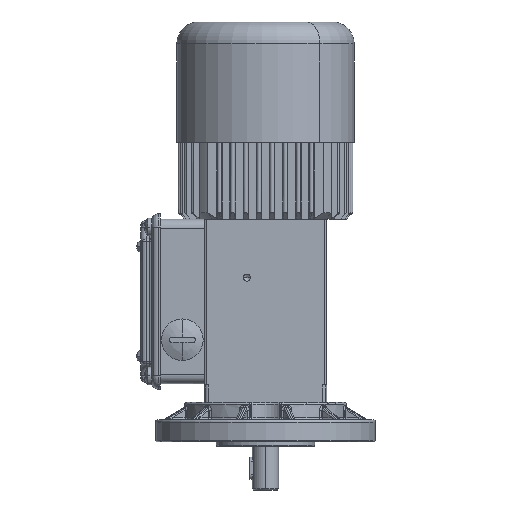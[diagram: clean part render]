
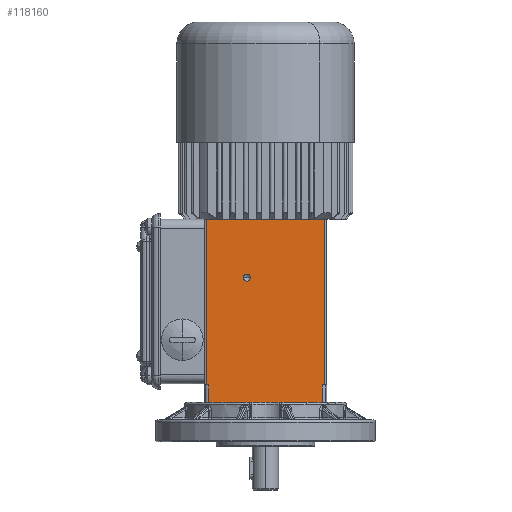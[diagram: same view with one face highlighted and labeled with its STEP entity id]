
A CAD part, front view. The second image highlights one B-rep face of the part: STEP entity #118160.
In plain terms, the highlighted planar face has unit normal (0, -1, 0).
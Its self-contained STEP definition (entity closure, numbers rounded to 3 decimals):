
#13765=CARTESIAN_POINT('',(26.,-28.,-37.85));
#13766=VERTEX_POINT('',#13765);
#13774=CARTESIAN_POINT('',(26.,-28.,-45.85));
#13775=VERTEX_POINT('',#13774);
#13776=CARTESIAN_POINT('',(26.,-28.,-37.85));
#13777=DIRECTION('',(0.0,0.0,-1.0));
#13778=VECTOR('',#13777,8.);
#13779=LINE('',#13776,#13778);
#13780=EDGE_CURVE('',#13766,#13775,#13779,.T.);
#15552=CARTESIAN_POINT('',(-27.,-28.,-37.85));
#15553=VERTEX_POINT('',#15552);
#15561=CARTESIAN_POINT('',(-27.,-28.,37.85));
#15562=VERTEX_POINT('',#15561);
#15563=CARTESIAN_POINT('',(-27.,-28.,-37.85));
#15564=DIRECTION('',(0.0,0.0,1.0));
#15565=VECTOR('',#15564,75.7);
#15566=LINE('',#15563,#15565);
#15567=EDGE_CURVE('',#15553,#15562,#15566,.T.);
#17437=CARTESIAN_POINT('',(-6.879,-28.0,11.15));
#17438=VERTEX_POINT('',#17437);
#17454=CARTESIAN_POINT('',(-10.121,-28.0,11.15));
#17455=VERTEX_POINT('',#17454);
#17462=CARTESIAN_POINT('',(-8.5,-28.,11.15));
#17463=DIRECTION('',(0.0,1.0,0.0));
#17464=DIRECTION('',(1.0,0.0,0.0));
#17465=AXIS2_PLACEMENT_3D('',#17462,#17463,#17464);
#17466=CIRCLE('',#17465,1.621);
#17467=EDGE_CURVE('',#17438,#17455,#17466,.T.);
#22635=CARTESIAN_POINT('',(-24.187,-28.,37.85));
#22636=VERTEX_POINT('',#22635);
#50681=CARTESIAN_POINT('',(-23.415,-28.,-45.85));
#50682=VERTEX_POINT('',#50681);
#50683=CARTESIAN_POINT('',(23.415,-28.,-45.85));
#50684=VERTEX_POINT('',#50683);
#50685=CARTESIAN_POINT('',(-23.415,-28.,-45.85));
#50686=DIRECTION('',(1.0,0.0,0.0));
#50687=VECTOR('',#50686,46.829);
#50688=LINE('',#50685,#50687);
#50689=EDGE_CURVE('',#50682,#50684,#50688,.T.);
#76609=CARTESIAN_POINT('',(-26.,-28.,-45.85));
#76610=VERTEX_POINT('',#76609);
#76611=CARTESIAN_POINT('',(-26.,-28.,-45.85));
#76612=DIRECTION('',(1.0,0.0,0.0));
#76613=VECTOR('',#76612,2.585);
#76614=LINE('',#76611,#76613);
#76615=EDGE_CURVE('',#76610,#50682,#76614,.T.);
#76687=CARTESIAN_POINT('',(23.415,-28.,-45.85));
#76688=DIRECTION('',(1.0,0.0,0.0));
#76689=VECTOR('',#76688,2.585);
#76690=LINE('',#76687,#76689);
#76691=EDGE_CURVE('',#50684,#13775,#76690,.T.);
#96184=CARTESIAN_POINT('',(24.187,-28.,37.85));
#96185=VERTEX_POINT('',#96184);
#96186=CARTESIAN_POINT('',(24.187,-28.,37.85));
#96187=DIRECTION('',(-1.0,0.0,0.0));
#96188=VECTOR('',#96187,48.374);
#96189=LINE('',#96186,#96188);
#96190=EDGE_CURVE('',#96185,#22636,#96189,.T.);
#115598=CARTESIAN_POINT('',(27.,-28.,37.85));
#115599=VERTEX_POINT('',#115598);
#115600=CARTESIAN_POINT('',(27.,-28.,37.85));
#115601=DIRECTION('',(-1.0,0.0,0.0));
#115602=VECTOR('',#115601,2.813);
#115603=LINE('',#115600,#115602);
#115604=EDGE_CURVE('',#115599,#96185,#115603,.T.);
#115671=CARTESIAN_POINT('',(-24.187,-28.,37.85));
#115672=DIRECTION('',(-1.0,0.0,0.0));
#115673=VECTOR('',#115672,2.813);
#115674=LINE('',#115671,#115673);
#115675=EDGE_CURVE('',#22636,#15562,#115674,.T.);
#116146=CARTESIAN_POINT('',(-8.5,-28.,11.15));
#116147=DIRECTION('',(0.0,1.0,0.0));
#116148=DIRECTION('',(1.0,0.0,0.0));
#116149=AXIS2_PLACEMENT_3D('',#116146,#116147,#116148);
#116150=CIRCLE('',#116149,1.621);
#116151=EDGE_CURVE('',#17455,#17438,#116150,.T.);
#117692=CARTESIAN_POINT('',(27.,-28.,-37.85));
#117693=VERTEX_POINT('',#117692);
#117694=CARTESIAN_POINT('',(27.,-28.,37.85));
#117695=DIRECTION('',(0.0,0.0,-1.0));
#117696=VECTOR('',#117695,75.7);
#117697=LINE('',#117694,#117696);
#117698=EDGE_CURVE('',#115599,#117693,#117697,.T.);
#118120=CARTESIAN_POINT('',(28.,-28.,-37.85));
#118121=DIRECTION('',(0.0,-1.0,0.0));
#118122=DIRECTION('',(0.0,0.0,-1.0));
#118123=AXIS2_PLACEMENT_3D('',#118120,#118121,#118122);
#118124=PLANE('',#118123);
#118125=ORIENTED_EDGE('',*,*,#117698,.F.);
#118126=ORIENTED_EDGE('',*,*,#115604,.T.);
#118127=ORIENTED_EDGE('',*,*,#96190,.T.);
#118128=ORIENTED_EDGE('',*,*,#115675,.T.);
#118129=ORIENTED_EDGE('',*,*,#15567,.F.);
#118130=CARTESIAN_POINT('',(-26.,-28.,-37.85));
#118131=VERTEX_POINT('',#118130);
#118132=CARTESIAN_POINT('',(-27.,-28.,-37.85));
#118133=DIRECTION('',(1.0,0.0,0.0));
#118134=VECTOR('',#118133,1.);
#118135=LINE('',#118132,#118134);
#118136=EDGE_CURVE('',#15553,#118131,#118135,.T.);
#118137=ORIENTED_EDGE('',*,*,#118136,.T.);
#118138=CARTESIAN_POINT('',(-26.,-28.,-45.85));
#118139=DIRECTION('',(0.0,0.0,1.0));
#118140=VECTOR('',#118139,8.);
#118141=LINE('',#118138,#118140);
#118142=EDGE_CURVE('',#76610,#118131,#118141,.T.);
#118143=ORIENTED_EDGE('',*,*,#118142,.F.);
#118144=ORIENTED_EDGE('',*,*,#76615,.T.);
#118145=ORIENTED_EDGE('',*,*,#50689,.T.);
#118146=ORIENTED_EDGE('',*,*,#76691,.T.);
#118147=ORIENTED_EDGE('',*,*,#13780,.F.);
#118148=CARTESIAN_POINT('',(26.,-28.,-37.85));
#118149=DIRECTION('',(1.0,0.,0.));
#118150=VECTOR('',#118149,1.);
#118151=LINE('',#118148,#118150);
#118152=EDGE_CURVE('',#13766,#117693,#118151,.T.);
#118153=ORIENTED_EDGE('',*,*,#118152,.T.);
#118154=EDGE_LOOP('',(#118125,#118126,#118127,#118128,#118129,#118137,#118143,#118144,#118145,#118146,#118147,#118153));
#118155=FACE_OUTER_BOUND('',#118154,.T.);
#118156=ORIENTED_EDGE('',*,*,#17467,.T.);
#118157=ORIENTED_EDGE('',*,*,#116151,.T.);
#118158=EDGE_LOOP('',(#118156,#118157));
#118159=FACE_BOUND('',#118158,.T.);
#118160=ADVANCED_FACE('',(#118155,#118159),#118124,.T.);
